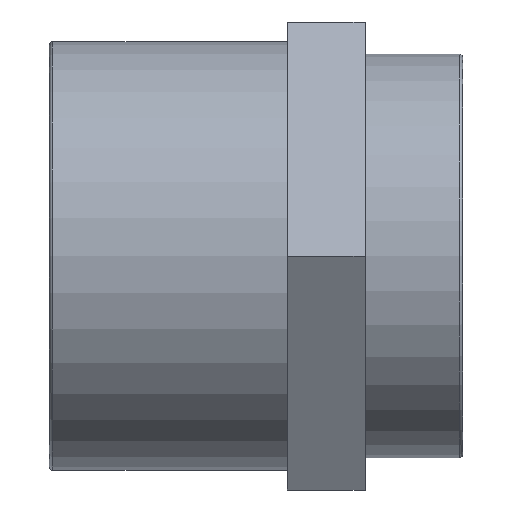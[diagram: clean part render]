
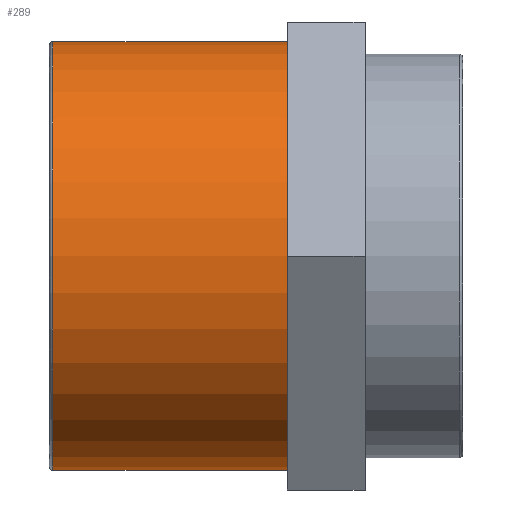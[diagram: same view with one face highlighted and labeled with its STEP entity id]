
A CAD part, top view. The second image highlights one B-rep face of the part: STEP entity #289.
In plain terms, the highlighted cylindrical face has radius 55 mm (diameter 110 mm), a full revolution.
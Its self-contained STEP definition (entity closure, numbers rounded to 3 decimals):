
#54=CYLINDRICAL_SURFACE('',#323,55.);
#77=FACE_BOUND('',#123,.T.);
#92=FACE_OUTER_BOUND('',#122,.T.);
#122=EDGE_LOOP('',(#230));
#123=EDGE_LOOP('',(#231));
#150=CIRCLE('',#322,55.);
#151=CIRCLE('',#324,55.);
#164=VERTEX_POINT('',#458);
#165=VERTEX_POINT('',#461);
#190=EDGE_CURVE('',#164,#164,#150,.T.);
#191=EDGE_CURVE('',#165,#165,#151,.T.);
#230=ORIENTED_EDGE('',*,*,#191,.T.);
#231=ORIENTED_EDGE('',*,*,#190,.F.);
#289=ADVANCED_FACE('',(#92,#77),#54,.T.);
#322=AXIS2_PLACEMENT_3D('',#459,#378,#379);
#323=AXIS2_PLACEMENT_3D('',#460,#380,#381);
#324=AXIS2_PLACEMENT_3D('',#462,#382,#383);
#378=DIRECTION('center_axis',(-1.,0.,0.));
#379=DIRECTION('ref_axis',(0.,1.,0.));
#380=DIRECTION('center_axis',(-1.,0.,0.));
#381=DIRECTION('ref_axis',(0.,-1.,0.));
#382=DIRECTION('center_axis',(-1.,0.,0.));
#383=DIRECTION('ref_axis',(0.,0.,1.));
#458=CARTESIAN_POINT('',(-52.1,-55.,0.));
#459=CARTESIAN_POINT('Origin',(-52.1,0.,0.));
#460=CARTESIAN_POINT('Origin',(-22.5,0.,0.));
#461=CARTESIAN_POINT('',(8.,-55.,0.));
#462=CARTESIAN_POINT('Origin',(8.,0.,0.));
